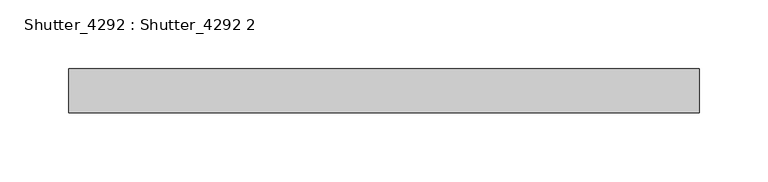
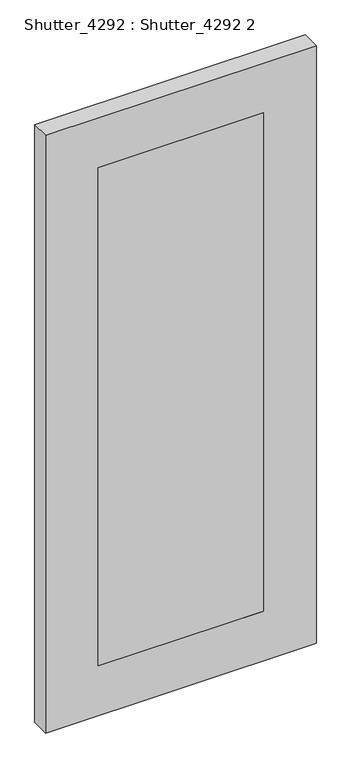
"""IFC4 building model written with IfcOpenShell, lengths in millimetres: proxy geometry, Shutter_4292 : Shutter_4292 2."""

from ifc_helpers import new_model, si_unit, origin, place, context, project, spatial, faceted_brep, source, transform, mapped, element, save


def shutter_4292_shutter_4292_2_a29cf403(model_context):
    return source(origin(), model_context, "Body", "Brep", [
        faceted_brep([(-368.3, 96.8375, 1892.3), (-368.3, 96.8375, 1003.3), (-88.9, 96.8375, 1003.3), (-88.9, 96.8375, 1892.3), (-127.0, 115.8875, 1854.2), (-127.0, 115.8875, 1041.4), (-330.2, 115.8875, 1041.4), (-330.2, 115.8875, 1854.2), (-368.3, 103.1875, 1892.3), (-368.3, 103.1875, 1003.3), (-88.9, 103.1875, 1003.3), (-88.9, 103.1875, 1892.3)], [[[0, 1, 2, 3]], [[4, 5, 6, 7]], [[1, 0, 8, 9]], [[2, 1, 9, 10]], [[3, 2, 10, 11]], [[0, 3, 11, 8]], [[10, 5, 4, 11]], [[5, 10, 9, 6]], [[6, 9, 8, 7]], [[11, 4, 7, 8]]]),
        faceted_brep([(-457.2, 96.8375, 1981.2), (-457.2, 128.5875, 1981.2), (-457.2, 128.5875, 914.4), (-457.2, 96.8375, 914.4), (-368.3, 96.8375, 1892.3), (-368.3, 96.8375, 1003.3), (-368.3, 103.1875, 1003.3), (-368.3, 115.8875, 1003.3), (-368.3, 128.5875, 1003.3), (-368.3, 128.5875, 1892.3), (-368.3, 115.8875, 1892.3), (-368.3, 103.1875, 1892.3), (0.0, 128.5875, 914.4), (0.0, 96.8375, 914.4), (-88.9, 96.8375, 1003.3), (-88.9, 103.1875, 1003.3), (-88.9, 115.8875, 1003.3), (-88.9, 128.5875, 1003.3), (0.0, 128.5875, 1981.2), (0.0, 96.8375, 1981.2), (-88.9, 96.8375, 1892.3), (-88.9, 103.1875, 1892.3), (-88.9, 115.8875, 1892.3), (-88.9, 128.5875, 1892.3)], [[[0, 1, 2, 3]], [[4, 5, 6, 7, 8, 9, 10, 11]], [[3, 2, 12, 13]], [[5, 14, 15, 16, 17, 8, 7, 6]], [[13, 12, 18, 19]], [[14, 20, 21, 22, 23, 17, 16, 15]], [[1, 0, 19, 18]], [[0, 3, 13, 19], [5, 4, 20, 14]], [[20, 4, 11, 10, 9, 23, 22, 21]], [[2, 1, 18, 12], [9, 8, 17, 23]]]),
    ])


if __name__ == "__main__":
    model = new_model("IFC4")
    model_context = context("Model", 3, world=origin())
    ifc_project = project(units=[si_unit("LENGTHUNIT", "METRE", prefix="MILLI")], contexts=[model_context])
    site = spatial("IfcSite", under=ifc_project)
    building = spatial("IfcBuilding", under=site)
    placement = place(None, origin())
    shutter_4292_shutter_4292_2_shape = shutter_4292_shutter_4292_2_a29cf403(model_context)
    element("IfcBuildingElementProxy", 1, Name="Shutter_4292 : Shutter_4292 2", ObjectType="Shutter_4292 : Shutter_4292 2", at=placement, inside=building, context=model_context, shape_type="MappedRepresentation", body=[
        mapped(shutter_4292_shutter_4292_2_shape, transform((0.0, 0.0, 0.0), x_axis=(1.0, 0.0, 0.0), y_axis=(0.0, 1.0, 0.0), z_axis=(0.0, 0.0, 1.0))),
    ])
    save(model, "model.ifc")
